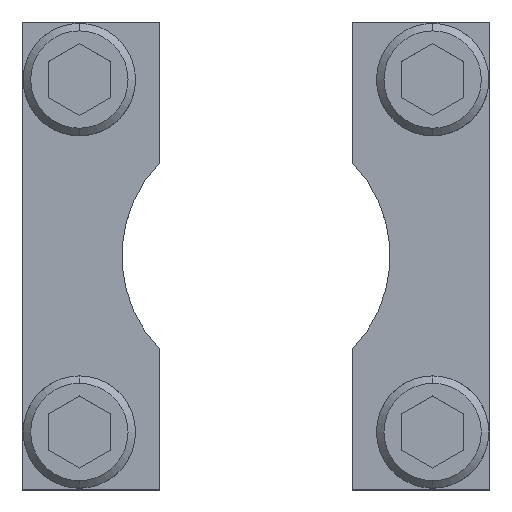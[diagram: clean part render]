
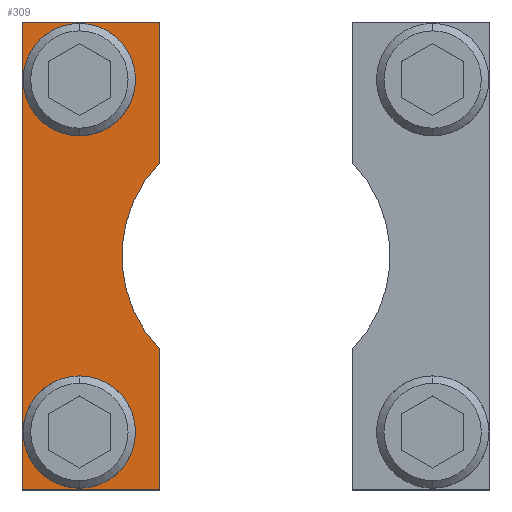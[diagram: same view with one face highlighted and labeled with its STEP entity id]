
A CAD part, top view. The second image highlights one B-rep face of the part: STEP entity #309.
In plain terms, the highlighted planar face has unit normal (0, 0, 1).
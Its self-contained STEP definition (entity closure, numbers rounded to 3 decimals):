
#175=FACE_BOUND('',#645,.T.);
#176=FACE_BOUND('',#646,.T.);
#177=FACE_BOUND('',#647,.T.);
#203=CIRCLE('',#2306,21.5);
#204=CIRCLE('',#2307,7.);
#205=CIRCLE('',#2308,7.);
#206=CIRCLE('',#2309,7.);
#207=CIRCLE('',#2310,7.);
#309=ADVANCED_FACE('',(#175,#176,#177),#445,.T.);
#445=PLANE('',#2311);
#645=EDGE_LOOP('',(#804,#805,#806,#807,#808,#809,#810,#811));
#646=EDGE_LOOP('',(#812,#813));
#647=EDGE_LOOP('',(#814,#815));
#804=ORIENTED_EDGE('',*,*,#1607,.T.);
#805=ORIENTED_EDGE('',*,*,#1608,.T.);
#806=ORIENTED_EDGE('',*,*,#1609,.T.);
#807=ORIENTED_EDGE('',*,*,#1600,.T.);
#808=ORIENTED_EDGE('',*,*,#1605,.T.);
#809=ORIENTED_EDGE('',*,*,#1610,.T.);
#810=ORIENTED_EDGE('',*,*,#1611,.T.);
#811=ORIENTED_EDGE('',*,*,#1612,.T.);
#812=ORIENTED_EDGE('',*,*,#1613,.T.);
#813=ORIENTED_EDGE('',*,*,#1614,.T.);
#814=ORIENTED_EDGE('',*,*,#1615,.T.);
#815=ORIENTED_EDGE('',*,*,#1616,.T.);
#1404=VERTEX_POINT('',#3229);
#1405=VERTEX_POINT('',#3231);
#1409=VERTEX_POINT('',#3240);
#1410=VERTEX_POINT('',#3245);
#1411=VERTEX_POINT('',#3246);
#1412=VERTEX_POINT('',#3248);
#1413=VERTEX_POINT('',#3251);
#1414=VERTEX_POINT('',#3253);
#1415=VERTEX_POINT('',#3256);
#1416=VERTEX_POINT('',#3257);
#1417=VERTEX_POINT('',#3260);
#1418=VERTEX_POINT('',#3261);
#1600=EDGE_CURVE('',#1405,#1404,#1904,.T.);
#1605=EDGE_CURVE('',#1404,#1409,#1909,.T.);
#1607=EDGE_CURVE('',#1410,#1411,#1911,.T.);
#1608=EDGE_CURVE('',#1411,#1412,#203,.T.);
#1609=EDGE_CURVE('',#1412,#1405,#1912,.T.);
#1610=EDGE_CURVE('',#1409,#1413,#1913,.T.);
#1611=EDGE_CURVE('',#1413,#1414,#1914,.T.);
#1612=EDGE_CURVE('',#1414,#1410,#1915,.T.);
#1613=EDGE_CURVE('',#1415,#1416,#204,.T.);
#1614=EDGE_CURVE('',#1416,#1415,#205,.T.);
#1615=EDGE_CURVE('',#1417,#1418,#206,.T.);
#1616=EDGE_CURVE('',#1418,#1417,#207,.T.);
#1904=LINE('',#3230,#2104);
#1909=LINE('',#3241,#2109);
#1911=LINE('',#3244,#2111);
#1912=LINE('',#3249,#2112);
#1913=LINE('',#3250,#2113);
#1914=LINE('',#3252,#2114);
#1915=LINE('',#3254,#2115);
#2104=VECTOR('',#2547,1.);
#2109=VECTOR('',#2554,1.);
#2111=VECTOR('',#2558,1.);
#2112=VECTOR('',#2561,1.);
#2113=VECTOR('',#2562,1.);
#2114=VECTOR('',#2563,1.);
#2115=VECTOR('',#2564,1.);
#2306=AXIS2_PLACEMENT_3D('',#3247,#2559,#2560);
#2307=AXIS2_PLACEMENT_3D('',#3255,#2565,#2566);
#2308=AXIS2_PLACEMENT_3D('',#3258,#2567,#2568);
#2309=AXIS2_PLACEMENT_3D('',#3259,#2569,#2570);
#2310=AXIS2_PLACEMENT_3D('',#3262,#2571,#2572);
#2311=AXIS2_PLACEMENT_3D('',#3263,#2573,#2574);
#2547=DIRECTION('',(0.,1.,0.));
#2554=DIRECTION('',(-1.,0.,0.));
#2558=DIRECTION('',(0.,1.,0.));
#2559=DIRECTION('',(0.,0.,-1.));
#2560=DIRECTION('',(-0.569,0.822,0.));
#2561=DIRECTION('',(0.,1.,0.));
#2562=DIRECTION('',(0.,-1.,0.));
#2563=DIRECTION('',(1.,0.,0.));
#2564=DIRECTION('',(0.,1.,0.));
#2565=DIRECTION('',(0.,0.,-1.));
#2566=DIRECTION('',(-1.,0.,0.));
#2567=DIRECTION('',(0.,0.,-1.));
#2568=DIRECTION('',(1.,0.,0.));
#2569=DIRECTION('',(0.,0.,-1.));
#2570=DIRECTION('',(-1.,0.,0.));
#2571=DIRECTION('',(0.,0.,-1.));
#2572=DIRECTION('',(1.,0.,0.));
#2573=DIRECTION('',(0.,0.,1.));
#2574=DIRECTION('',(0.,1.,0.));
#3229=CARTESIAN_POINT('',(-15.5,37.5,12.));
#3230=CARTESIAN_POINT('',(-15.5,37.5,12.));
#3231=CARTESIAN_POINT('',(-15.5,19.615,12.));
#3240=CARTESIAN_POINT('',(-37.5,37.5,12.));
#3241=CARTESIAN_POINT('',(-15.5,37.5,12.));
#3244=CARTESIAN_POINT('',(-15.5,-14.9,12.));
#3245=CARTESIAN_POINT('',(-15.5,-19.615,12.));
#3246=CARTESIAN_POINT('',(-15.5,-14.9,12.));
#3247=CARTESIAN_POINT('',(0.,0.,12.));
#3248=CARTESIAN_POINT('',(-15.5,14.9,12.));
#3249=CARTESIAN_POINT('',(-15.5,19.615,12.));
#3250=CARTESIAN_POINT('',(-37.5,37.5,12.));
#3251=CARTESIAN_POINT('',(-37.5,-37.5,12.));
#3252=CARTESIAN_POINT('',(-15.5,-37.5,12.));
#3253=CARTESIAN_POINT('',(-15.5,-37.5,12.));
#3254=CARTESIAN_POINT('',(-15.5,-19.615,12.));
#3255=CARTESIAN_POINT('',(-28.319,-28.25,12.));
#3256=CARTESIAN_POINT('',(-28.319,-21.25,12.));
#3257=CARTESIAN_POINT('',(-28.319,-35.25,12.));
#3258=CARTESIAN_POINT('',(-28.319,-28.25,12.));
#3259=CARTESIAN_POINT('',(-28.319,28.25,12.));
#3260=CARTESIAN_POINT('',(-28.319,35.25,12.));
#3261=CARTESIAN_POINT('',(-28.319,21.25,12.));
#3262=CARTESIAN_POINT('',(-28.319,28.25,12.));
#3263=CARTESIAN_POINT('',(-15.5,-19.615,12.));
